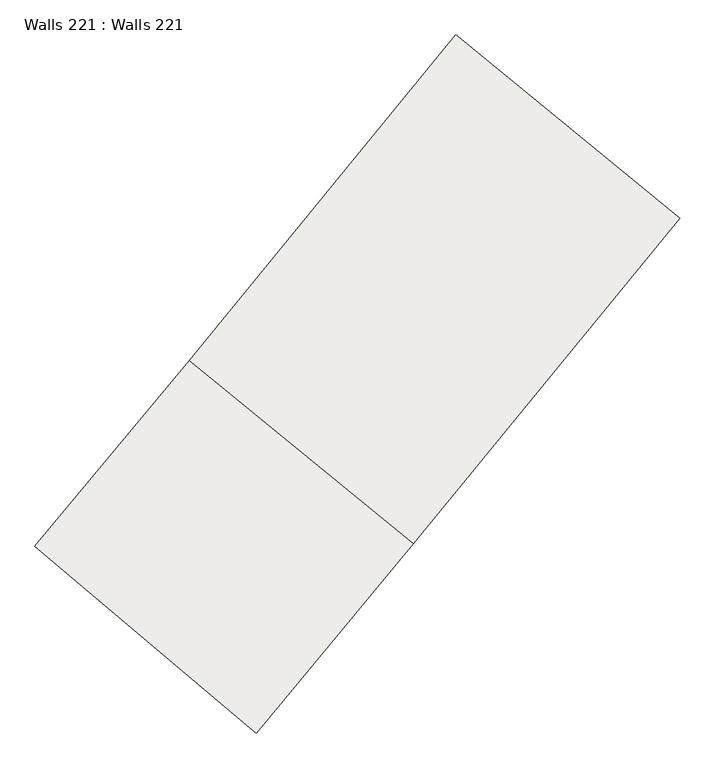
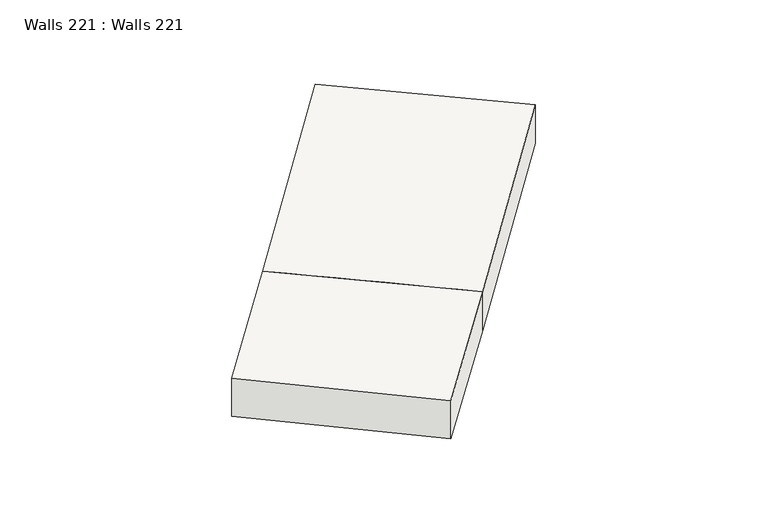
"""IFC4 building model written with IfcOpenShell, lengths in millimetres: slab geometry, Walls 221 : Walls 221."""

from ifc_helpers import new_model, si_unit, frame, origin, place, context, project, spatial, source, transform, mapped, element, save
from ifc_brep_helpers import plane_surface, spline_curve, spline_surface, advanced_brep


def walls_221_walls_221_60de80a1(model_context):
    return source(origin(), model_context, "Body", "AdvancedBrep", [
        advanced_brep(
        [(388160.7941454, 259430.5061126, 645601.0), (388160.7941454, 259430.5061126, 644801.0), (391065.8866461, 256980.9270543, 644801.0), (391065.8866461, 256980.9270543, 645601.0), (393126.8518546, 259462.1987395, 645642.0), (390185.7958342, 261868.4799958, 645642.0), (390185.7958342, 261868.4799958, 644842.0), (393126.8518546, 259462.1987395, 644842.0), (393680.5009784, 266139.8525034, 644914.0), (393680.5009784, 266139.8525034, 645714.0), (396621.5569988, 263733.5712471, 645714.0), (396621.5569988, 263733.5712471, 644914.0)],
        [
            (0, 1),
            (1, 2),
            (2, 3),
            (3, 0),
            (3, 4, spline_curve(3, [(391065.8866461, 256980.9270543, 645601.0), (391758.987982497, 257802.914606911, 645614.66666669), (392446.001506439, 258630.035412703, 645628.33333331), (393126.8518546, 259462.1987395, 645642.0)], [4, 4], [0.0, 10.49117240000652])),
            (4, 5, spline_curve(3, [(393126.8518546, 259462.1987395, 645642.0), (392146.499847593, 260264.292491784, 645642.0), (391166.147841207, 261066.386243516, 645642.0), (390185.7958342, 261868.4799958, 645642.0)], [4, 4], [0.0, 12.467191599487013])),
            (5, 0, spline_curve(3, [(390185.7958342, 261868.4799958, 645642.0), (389516.826217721, 261050.83778853, 645628.33333331), (388841.800972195, 260238.150111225, 645614.66666669), (388160.7941454, 259430.5061126, 645601.0)], [4, 4], [0.0, 10.49117240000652])),
            (5, 6, spline_curve(3, [(390185.7958342, 261868.4799958, 645642.0), (390185.7958342, 261868.4799958, 645375.333333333), (390185.7958342, 261868.4799958, 645108.666666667), (390185.7958342, 261868.4799958, 644842.0)], [4, 4], [0.0, 2.624671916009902])),
            (6, 1, spline_curve(3, [(390185.7958342, 261868.4799958, 644842.0), (389516.826217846, 261050.837788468, 644828.333333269), (388841.80097209, 260238.150111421, 644814.666666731), (388160.7941454, 259430.5061126, 644801.0)], [4, 4], [0.0, 10.398847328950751])),
            (6, 7, spline_curve(3, [(390185.7958342, 261868.4799958, 644842.0), (391166.147841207, 261066.386243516, 644842.0), (392146.499847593, 260264.292491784, 644842.0), (393126.8518546, 259462.1987395, 644842.0)], [4, 4], [0.0, 12.467191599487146])),
            (7, 2, spline_curve(3, [(393126.8518546, 259462.1987395, 644842.0), (392446.001506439, 258630.035412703, 644828.33333331), (391758.987982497, 257802.914606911, 644814.66666669), (391065.8866461, 256980.9270543, 644801.0)], [4, 4], [0.0, 10.491172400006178])),
            (7, 4, spline_curve(3, [(393126.8518546, 259462.1987395, 644842.0), (393126.8518546, 259462.1987395, 645108.666666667), (393126.8518546, 259462.1987395, 645375.333333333), (393126.8518546, 259462.1987395, 645642.0)], [4, 4], [0.0, 2.624671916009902])),
            (8, 9),
            (9, 10),
            (10, 11),
            (11, 8),
            (9, 5),
            (4, 10),
            (8, 6),
            (11, 7),
        ],
        [
            plane_surface(frame((389613.3403957, 258205.7165834, 645201.0), z_axis=(-0.6446260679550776, -0.764498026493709, 0.0), x_axis=(0.0, 0.0, 1.0))),
            spline_surface(3, 3, [[(393126.8518546, 259462.1987395, 645642.0), (392446.001506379, 258630.035412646, 645628.333333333), (391758.987982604, 257802.914606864, 645614.666666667), (391065.8866461, 256980.9270543, 645601.0)], [(392146.499847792, 260264.292491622, 645642.0), (391469.609743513, 259436.96953796, 645628.333333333), (390786.592312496, 258614.65977497, 645614.666666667), (390097.522479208, 257797.453407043, 645601.0)], [(391166.147841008, 261066.386243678, 645642.0), (390493.21798067, 260243.903663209, 645628.333333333), (389814.196642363, 259426.404943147, 645614.666666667), (389129.158312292, 258613.979759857, 645601.0)], [(390185.7958342, 261868.4799958, 645642.0), (389516.826217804, 261050.837788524, 645628.333333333), (388841.800972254, 260238.150111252, 645614.666666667), (388160.7941454, 259430.5061126, 645601.0)]], [4, 4], [4, 4], [0.0, 12.467191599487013], [0.0, 10.49117240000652]),
            spline_surface(3, 3, [[(390185.7958342, 261868.4799958, 645642.0), (389516.826217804, 261050.837788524, 645628.333333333), (388841.800972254, 260238.150111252, 645614.666666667), (388160.7941454, 259430.5061126, 645601.0)], [(390185.7958342, 261868.4799958, 645375.333333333), (389516.826217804, 261050.837788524, 645361.666666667), (388841.800972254, 260238.150111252, 645348.0), (388160.7941454, 259430.5061126, 645334.333333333)], [(390185.7958342, 261868.4799958, 645108.666666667), (389516.826217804, 261050.837788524, 645095.0), (388841.800972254, 260238.150111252, 645081.333333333), (388160.7941454, 259430.5061126, 645067.666666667)], [(390185.7958342, 261868.4799958, 644842.0), (389516.826217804, 261050.837788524, 644828.333333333), (388841.800972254, 260238.150111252, 644814.666666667), (388160.7941454, 259430.5061126, 644801.0)]], [4, 4], [4, 4], [0.0, 2.624671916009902], [0.0, 10.398847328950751]),
            spline_surface(3, 3, [[(390185.7958342, 261868.4799958, 644842.0), (389516.826217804, 261050.837788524, 644828.333333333), (388841.800972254, 260238.150111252, 644814.666666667), (388160.7941454, 259430.5061126, 644801.0)], [(391166.147841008, 261066.386243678, 644842.0), (390493.21798067, 260243.903663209, 644828.333333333), (389814.196642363, 259426.404943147, 644814.666666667), (389129.158312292, 258613.979759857, 644801.0)], [(392146.499847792, 260264.292491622, 644842.0), (391469.609743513, 259436.96953796, 644828.333333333), (390786.592312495, 258614.65977497, 644814.666666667), (390097.522479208, 257797.453407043, 644801.0)], [(393126.8518546, 259462.1987395, 644842.0), (392446.001506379, 258630.035412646, 644828.333333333), (391758.987982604, 257802.914606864, 644814.666666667), (391065.8866461, 256980.9270543, 644801.0)]], [4, 4], [4, 4], [0.0, 12.467191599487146], [0.0, 10.491172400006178]),
            spline_surface(3, 3, [[(393126.8518546, 259462.1987395, 644842.0), (392446.001506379, 258630.035412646, 644828.333333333), (391758.987982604, 257802.914606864, 644814.666666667), (391065.8866461, 256980.9270543, 644801.0)], [(393126.8518546, 259462.1987395, 645108.666666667), (392446.001506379, 258630.035412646, 645095.0), (391758.987982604, 257802.914606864, 645081.333333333), (391065.8866461, 256980.9270543, 645067.666666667)], [(393126.8518546, 259462.1987395, 645375.333333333), (392446.001506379, 258630.035412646, 645361.666666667), (391758.987982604, 257802.914606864, 645348.0), (391065.8866461, 256980.9270543, 645334.333333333)], [(393126.8518546, 259462.1987395, 645642.0), (392446.001506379, 258630.035412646, 645628.333333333), (391758.987982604, 257802.914606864, 645614.666666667), (391065.8866461, 256980.9270543, 645601.0)]], [4, 4], [4, 4], [0.0, 2.624671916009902], [0.0, 10.58349760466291]),
            plane_surface(frame((395151.0289886, 264936.7118753, 645314.0), z_axis=(0.633231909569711, 0.7739621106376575, 0.0), x_axis=(0.7739621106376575, -0.633231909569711, 0.0))),
            plane_surface(frame((395151.0289886, 264936.7118753, 645714.0), z_axis=(-0.008260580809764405, -0.01009642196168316, 0.9999149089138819), x_axis=(-0.7739621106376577, 0.6332319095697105, 0.0))),
            plane_surface(frame((393680.5009784, 266139.8525034, 645314.0), z_axis=(-0.7739621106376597, 0.6332319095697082, 0.0), x_axis=(0.0, 0.0, -1.0))),
            plane_surface(frame((395151.0289886, 264936.7118753, 644914.0), z_axis=(0.008260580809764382, 0.010096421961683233, -0.9999149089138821), x_axis=(0.7739621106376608, -0.6332319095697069, 0.0))),
            plane_surface(frame((396621.5569988, 263733.5712471, 645314.0), z_axis=(0.7739621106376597, -0.6332319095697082, 0.0), x_axis=(0.0, 0.0, 1.0))),
        ],
        [
            (0, [[1, 2, 3, 4]]),
            (1, [[-4, 5, 6, 7]]),
            (2, [[-1, -7, 8, 9]]),
            (3, [[-2, -9, 10, 11]]),
            (4, [[-3, -11, 12, -5]]),
            (5, [[13, 14, 15, 16]]),
            (6, [[-14, 17, -6, 18]]),
            (7, [[-13, 19, -8, -17]]),
            (8, [[-16, 20, -10, -19]]),
            (9, [[-15, -18, -12, -20]]),
        ],
    ),
    ])


if __name__ == "__main__":
    model = new_model("IFC4")
    model_context = context("Model", 3, world=origin())
    ifc_project = project(units=[si_unit("LENGTHUNIT", "METRE", prefix="MILLI")], contexts=[model_context])
    site = spatial("IfcSite", under=ifc_project)
    building = spatial("IfcBuilding", under=site)
    placement = place(None, origin())
    walls_221_walls_221_shape = walls_221_walls_221_60de80a1(model_context)
    element("IfcSlab", 1, ObjectType="Walls 221 : Walls 221", at=placement, inside=building, context=model_context, shape_type="MappedRepresentation", body=[
        mapped(walls_221_walls_221_shape, transform((0.0, 0.0, 0.0), x_axis=(1.0, 0.0, 0.0), y_axis=(0.0, 1.0, 0.0), z_axis=(0.0, 0.0, 1.0))),
    ])
    save(model, "model.ifc")
